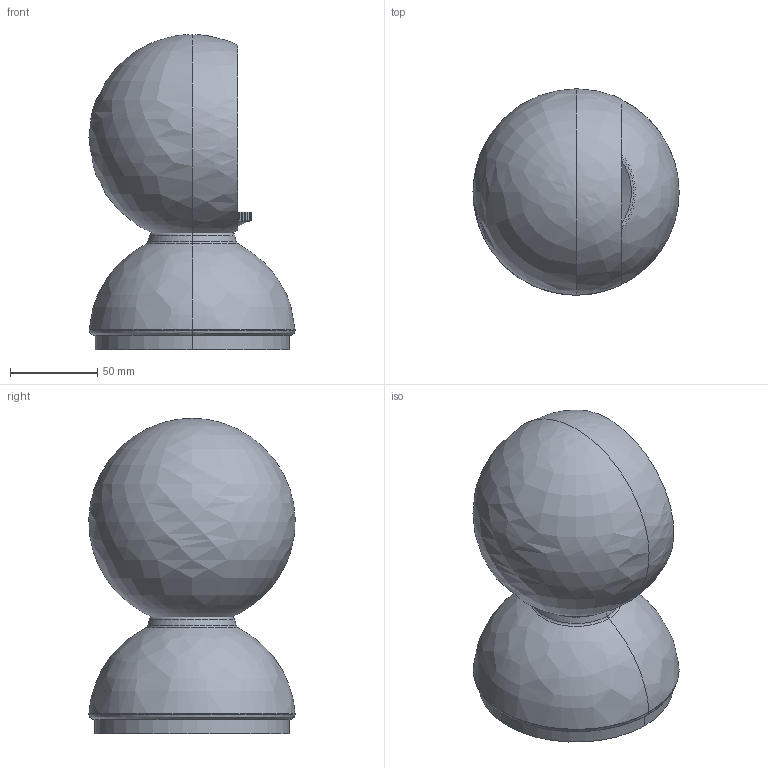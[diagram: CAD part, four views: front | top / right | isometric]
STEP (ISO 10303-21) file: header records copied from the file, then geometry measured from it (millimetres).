
FILE_DESCRIPTION(/* description */ (''),/* implementation_level */ '2;1');
FILE_NAME(/* name */ 'Eclisse',/* time_stamp */ '2026-06-16T16:45:05+02:00',/* author */ (''),/* organization */ (''),/* preprocessor_version */ 'ST-DEVELOPER v16.5',/* originating_system */ 'Rhino 7.38',/* authorisation */ '');
FILE_SCHEMA (('CONFIG_CONTROL_DESIGN'));
Length unit declared in the file: millimetre
Products named in the file (1): Document
Bounding box: 117.88 x 117.94 x 180.1 mm (x, y, z)
Volume: 221398.3 mm3; surface area: 200352.7 mm2
Topology: 8 solids, 9 shells, 408 faces, 1100 edges, 702 vertices
Faces by surface type: cylinder 161, plane 159, bspline 88
Entity records: 13714 total; most frequent: CARTESIAN_POINT 6656, ORIENTED_EDGE 2182, EDGE_CURVE 1092, VERTEX_POINT 702, B_SPLINE_CURVE_WITH_KNOTS 466, EDGE_LOOP 423, ADVANCED_FACE 408, FACE_OUTER_BOUND 408
